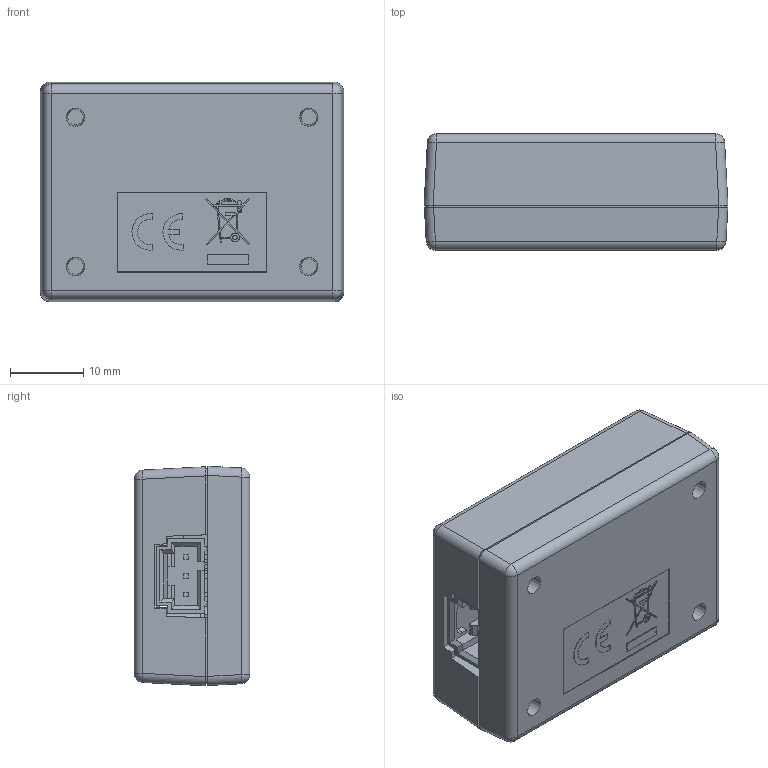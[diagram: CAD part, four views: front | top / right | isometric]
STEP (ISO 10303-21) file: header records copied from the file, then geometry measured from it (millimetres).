
FILE_DESCRIPTION(/* description */ ('Alibre Inc.'),/* implementation_level */ '2;1');
FILE_NAME(/* name */ 'export0',/* time_stamp */ '2018-08-10T08:54:22-06:00',/* author */ (''),/* organization */ (''),/* preprocessor_version */ 'ST-DEVELOPER v17',/* originating_system */ 'Alibre',/* authorisation */ '');
FILE_SCHEMA (('CONFIG_CONTROL_DESIGN'));
Length unit declared in the file: centimetre
Products named in the file (117): ID_1; ID_2; ID_3; ID_4; ID_5; ID_6; ID_7; ID_8; ID_9; ID_10; ID_11; ID_12; ID_13; ID_14; ID_15; ID_16; ID_17; ID_18; ID_19; ID_20; ID_21; ID_22; ID_23; ID_24; ID_25; ID_26; ID_27; ID_28; ID_29; ID_30
Bounding box: 41.36 x 15.78 x 29.88 mm (x, y, z)
Volume: 9740 mm3; surface area: 14154.3 mm2
Topology: 141 solids, 141 shells, 2477 faces, 6244 edges, 4036 vertices
Faces by surface type: plane 1869, cylinder 505, bspline 61, sphere 18, cone 16, revolution 8
Full cylindrical faces by diameter (mm): 0.6 x2, 0.965 x3, 1.321 x2, 3.124 x4, 3.175 x4, 8 x1
Entity records: 64393 total; most frequent: CARTESIAN_POINT 12185, ORIENTED_EDGE 8282, DIRECTION 7031, EDGE_CURVE 4141, VECTOR 3138, LINE 3138, VERTEX_POINT 2694, AXIS2_PLACEMENT_3D 2472
